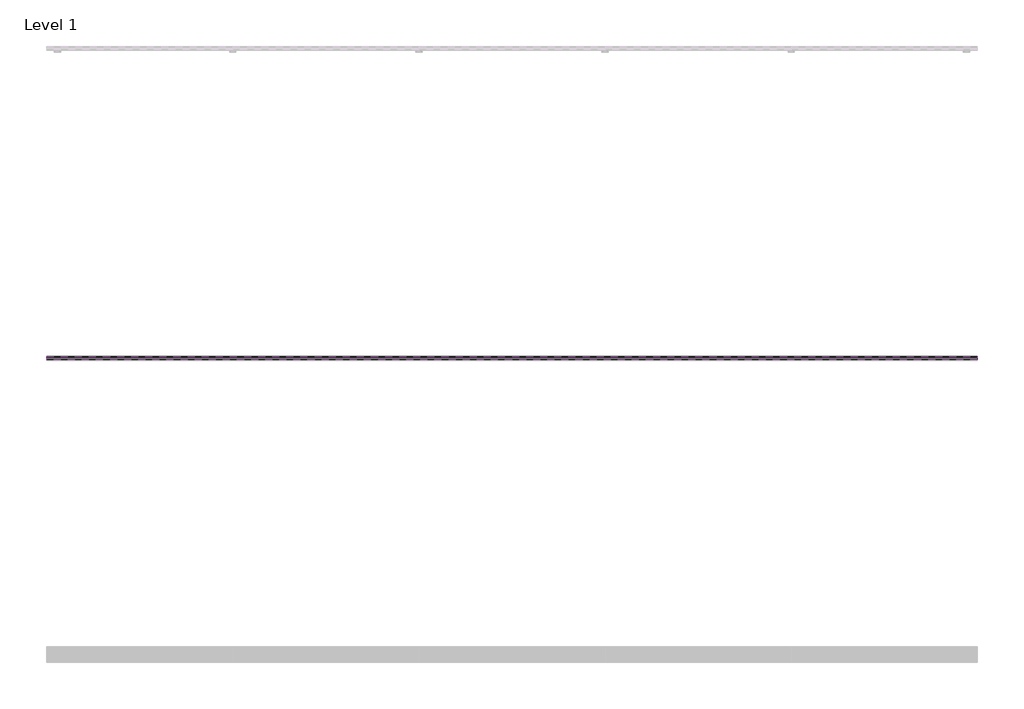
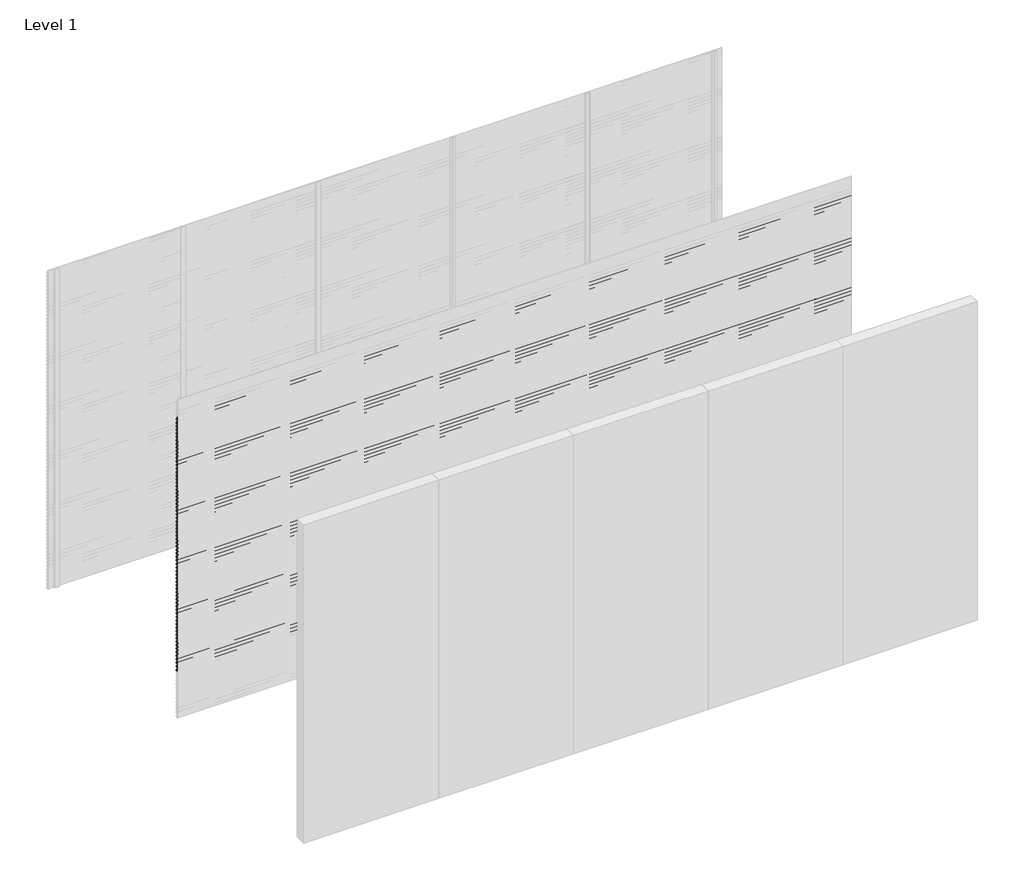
# One storey, part 41 of 77: 72 proxies.
"""IFC4 building model written with IfcOpenShell, lengths in millimetres."""

from ifc_helpers import new_model, si_unit, frame, origin, place, context, project, spatial, polyline, outline, extrude, element, save

model = new_model("IFC4")

# Units and contexts
model_context = context("Model", 3, world=origin())
ifc_project = project(units=[si_unit("LENGTHUNIT", "METRE", prefix="MILLI")], contexts=[model_context])

# Site, building, storey
site = spatial("IfcSite", under=ifc_project)
building = spatial("IfcBuilding", under=site)
storey = spatial("IfcBuildingStorey", under=building, Name="Level 1", Elevation=0.0)

# Proxies
placement = place(None, origin())
element("IfcBuildingElementProxy", 1, Name="Wall Sweeps", at=placement, inside=storey, context=model_context, shape_type="SweptSolid", body=[
    extrude(outline(polyline([(-25978.6, 2806.0359887), (-25998.0, 2817.2366691), (-25998.0, 2830.5), (-25997.0, 2830.5), (-25997.0, 2817.8191057), (-25977.6, 2806.6185105), (-25977.6, 2793.0185105), (-25978.6, 2794.5953129), (-25978.6, 2800.4032062), (-25995.9773817, 2792.3), (-25996.4, 2793.2063078), (-25978.6, 2801.5065841), (-25978.6, 2806.0359887)])), frame((0.0, 0.0, 0.0), z_axis=(1.0, 0.0, 0.0), x_axis=(0.0, 1.0, 0.0)), (0.0, 0.0, 1.0), 6000.0),
])
element("IfcBuildingElementProxy", 2, Name="Wall Sweeps", at=placement, inside=storey, context=model_context, shape_type="SweptSolid", body=[
    extrude(outline(polyline([(-25978.6, 2772.7359887), (-25998.0, 2783.9366691), (-25998.0, 2797.2), (-25997.0, 2797.2), (-25997.0, 2784.5191057), (-25977.6, 2773.3185105), (-25977.6, 2759.7185105), (-25978.6, 2761.2953129), (-25978.6, 2767.1032062), (-25995.9773817, 2759.0), (-25996.4, 2759.9063078), (-25978.6, 2768.2065841), (-25978.6, 2772.7359887)])), frame((0.0, 0.0, 0.0), z_axis=(1.0, 0.0, 0.0), x_axis=(0.0, 1.0, 0.0)), (0.0, 0.0, 1.0), 6000.0),
])
element("IfcBuildingElementProxy", 3, Name="Wall Sweeps", at=placement, inside=storey, context=model_context, shape_type="SweptSolid", body=[
    extrude(outline(polyline([(-25978.6, 2739.4359887), (-25998.0, 2750.6366691), (-25998.0, 2763.9), (-25997.0, 2763.9), (-25997.0, 2751.2191057), (-25977.6, 2740.0185105), (-25977.6, 2726.4185105), (-25978.6, 2727.9953129), (-25978.6, 2733.8032062), (-25995.9773817, 2725.7), (-25996.4, 2726.6063078), (-25978.6, 2734.9065841), (-25978.6, 2739.4359887)])), frame((0.0, 0.0, 0.0), z_axis=(1.0, 0.0, 0.0), x_axis=(0.0, 1.0, 0.0)), (0.0, 0.0, 1.0), 6000.0),
])
element("IfcBuildingElementProxy", 4, Name="Wall Sweeps", at=placement, inside=storey, context=model_context, shape_type="SweptSolid", body=[
    extrude(outline(polyline([(-25978.6, 2706.1359887), (-25998.0, 2717.3366691), (-25998.0, 2730.6), (-25997.0, 2730.6), (-25997.0, 2717.9191057), (-25977.6, 2706.7185105), (-25977.6, 2693.1185105), (-25978.6, 2694.6953129), (-25978.6, 2700.5032062), (-25995.9773817, 2692.4), (-25996.4, 2693.3063078), (-25978.6, 2701.6065841), (-25978.6, 2706.1359887)])), frame((0.0, 0.0, 0.0), z_axis=(1.0, 0.0, 0.0), x_axis=(0.0, 1.0, 0.0)), (0.0, 0.0, 1.0), 6000.0),
])
element("IfcBuildingElementProxy", 5, Name="Wall Sweeps", at=placement, inside=storey, context=model_context, shape_type="SweptSolid", body=[
    extrude(outline(polyline([(-25978.6, 2672.8359887), (-25998.0, 2684.0366691), (-25998.0, 2697.3), (-25997.0, 2697.3), (-25997.0, 2684.6191057), (-25977.6, 2673.4185105), (-25977.6, 2659.8185105), (-25978.6, 2661.3953129), (-25978.6, 2667.2032062), (-25995.9773817, 2659.1), (-25996.4, 2660.0063078), (-25978.6, 2668.3065841), (-25978.6, 2672.8359887)])), frame((0.0, 0.0, 0.0), z_axis=(1.0, 0.0, 0.0), x_axis=(0.0, 1.0, 0.0)), (0.0, 0.0, 1.0), 6000.0),
])
element("IfcBuildingElementProxy", 6, Name="Wall Sweeps", at=placement, inside=storey, context=model_context, shape_type="SweptSolid", body=[
    extrude(outline(polyline([(-25978.6, 2639.5359887), (-25998.0, 2650.7366691), (-25998.0, 2664.0), (-25997.0, 2664.0), (-25997.0, 2651.3191057), (-25977.6, 2640.1185105), (-25977.6, 2626.5185105), (-25978.6, 2628.0953129), (-25978.6, 2633.9032062), (-25995.9773817, 2625.8), (-25996.4, 2626.7063078), (-25978.6, 2635.0065841), (-25978.6, 2639.5359887)])), frame((0.0, 0.0, 0.0), z_axis=(1.0, 0.0, 0.0), x_axis=(0.0, 1.0, 0.0)), (0.0, 0.0, 1.0), 6000.0),
])
element("IfcBuildingElementProxy", 7, Name="Wall Sweeps", at=placement, inside=storey, context=model_context, shape_type="SweptSolid", body=[
    extrude(outline(polyline([(-25978.6, 2606.2359887), (-25998.0, 2617.4366691), (-25998.0, 2630.7), (-25997.0, 2630.7), (-25997.0, 2618.0191057), (-25977.6, 2606.8185105), (-25977.6, 2593.2185105), (-25978.6, 2594.7953129), (-25978.6, 2600.6032062), (-25995.9773817, 2592.5), (-25996.4, 2593.4063078), (-25978.6, 2601.7065841), (-25978.6, 2606.2359887)])), frame((0.0, 0.0, 0.0), z_axis=(1.0, 0.0, 0.0), x_axis=(0.0, 1.0, 0.0)), (0.0, 0.0, 1.0), 6000.0),
])
element("IfcBuildingElementProxy", 8, Name="Wall Sweeps", at=placement, inside=storey, context=model_context, shape_type="SweptSolid", body=[
    extrude(outline(polyline([(-25978.6, 2572.9359887), (-25998.0, 2584.1366691), (-25998.0, 2597.4), (-25997.0, 2597.4), (-25997.0, 2584.7191057), (-25977.6, 2573.5185105), (-25977.6, 2559.9185105), (-25978.6, 2561.4953129), (-25978.6, 2567.3032062), (-25995.9773817, 2559.2), (-25996.4, 2560.1063078), (-25978.6, 2568.4065841), (-25978.6, 2572.9359887)])), frame((0.0, 0.0, 0.0), z_axis=(1.0, 0.0, 0.0), x_axis=(0.0, 1.0, 0.0)), (0.0, 0.0, 1.0), 6000.0),
])
element("IfcBuildingElementProxy", 9, Name="Wall Sweeps", at=placement, inside=storey, context=model_context, shape_type="SweptSolid", body=[
    extrude(outline(polyline([(-25978.6, 2539.6359887), (-25998.0, 2550.8366691), (-25998.0, 2564.1), (-25997.0, 2564.1), (-25997.0, 2551.4191057), (-25977.6, 2540.2185105), (-25977.6, 2526.6185105), (-25978.6, 2528.1953129), (-25978.6, 2534.0032062), (-25995.9773817, 2525.9), (-25996.4, 2526.8063078), (-25978.6, 2535.1065841), (-25978.6, 2539.6359887)])), frame((0.0, 0.0, 0.0), z_axis=(1.0, 0.0, 0.0), x_axis=(0.0, 1.0, 0.0)), (0.0, 0.0, 1.0), 6000.0),
])
element("IfcBuildingElementProxy", 10, Name="Wall Sweeps", at=placement, inside=storey, context=model_context, shape_type="SweptSolid", body=[
    extrude(outline(polyline([(-25978.6, 2506.3359887), (-25998.0, 2517.5366691), (-25998.0, 2530.8), (-25997.0, 2530.8), (-25997.0, 2518.1191057), (-25977.6, 2506.9185105), (-25977.6, 2493.3185105), (-25978.6, 2494.8953129), (-25978.6, 2500.7032062), (-25995.9773817, 2492.6), (-25996.4, 2493.5063078), (-25978.6, 2501.8065841), (-25978.6, 2506.3359887)])), frame((0.0, 0.0, 0.0), z_axis=(1.0, 0.0, 0.0), x_axis=(0.0, 1.0, 0.0)), (0.0, 0.0, 1.0), 6000.0),
])
element("IfcBuildingElementProxy", 11, Name="Wall Sweeps", at=placement, inside=storey, context=model_context, shape_type="SweptSolid", body=[
    extrude(outline(polyline([(-25978.6, 2473.0359887), (-25998.0, 2484.2366691), (-25998.0, 2497.5), (-25997.0, 2497.5), (-25997.0, 2484.8191057), (-25977.6, 2473.6185105), (-25977.6, 2460.0185105), (-25978.6, 2461.5953129), (-25978.6, 2467.4032062), (-25995.9773817, 2459.3), (-25996.4, 2460.2063078), (-25978.6, 2468.5065841), (-25978.6, 2473.0359887)])), frame((0.0, 0.0, 0.0), z_axis=(1.0, 0.0, 0.0), x_axis=(0.0, 1.0, 0.0)), (0.0, 0.0, 1.0), 6000.0),
])
element("IfcBuildingElementProxy", 12, Name="Wall Sweeps", at=placement, inside=storey, context=model_context, shape_type="SweptSolid", body=[
    extrude(outline(polyline([(-25978.6, 2439.7359887), (-25998.0, 2450.9366691), (-25998.0, 2464.2), (-25997.0, 2464.2), (-25997.0, 2451.5191057), (-25977.6, 2440.3185105), (-25977.6, 2426.7185105), (-25978.6, 2428.2953129), (-25978.6, 2434.1032062), (-25995.9773817, 2426.0), (-25996.4, 2426.9063078), (-25978.6, 2435.2065841), (-25978.6, 2439.7359887)])), frame((0.0, 0.0, 0.0), z_axis=(1.0, 0.0, 0.0), x_axis=(0.0, 1.0, 0.0)), (0.0, 0.0, 1.0), 6000.0),
])
element("IfcBuildingElementProxy", 13, Name="Wall Sweeps", at=placement, inside=storey, context=model_context, shape_type="SweptSolid", body=[
    extrude(outline(polyline([(-25978.6, 2406.4359887), (-25998.0, 2417.6366691), (-25998.0, 2430.9), (-25997.0, 2430.9), (-25997.0, 2418.2191057), (-25977.6, 2407.0185105), (-25977.6, 2393.4185105), (-25978.6, 2394.9953129), (-25978.6, 2400.8032062), (-25995.9773817, 2392.7), (-25996.4, 2393.6063078), (-25978.6, 2401.9065841), (-25978.6, 2406.4359887)])), frame((0.0, 0.0, 0.0), z_axis=(1.0, 0.0, 0.0), x_axis=(0.0, 1.0, 0.0)), (0.0, 0.0, 1.0), 6000.0),
])
element("IfcBuildingElementProxy", 14, Name="Wall Sweeps", at=placement, inside=storey, context=model_context, shape_type="SweptSolid", body=[
    extrude(outline(polyline([(-25978.6, 2373.1359887), (-25998.0, 2384.3366691), (-25998.0, 2397.6), (-25997.0, 2397.6), (-25997.0, 2384.9191057), (-25977.6, 2373.7185105), (-25977.6, 2360.1185105), (-25978.6, 2361.6953129), (-25978.6, 2367.5032062), (-25995.9773817, 2359.4), (-25996.4, 2360.3063078), (-25978.6, 2368.6065841), (-25978.6, 2373.1359887)])), frame((0.0, 0.0, 0.0), z_axis=(1.0, 0.0, 0.0), x_axis=(0.0, 1.0, 0.0)), (0.0, 0.0, 1.0), 6000.0),
])
element("IfcBuildingElementProxy", 15, Name="Wall Sweeps", at=placement, inside=storey, context=model_context, shape_type="SweptSolid", body=[
    extrude(outline(polyline([(-25978.6, 2339.8359887), (-25998.0, 2351.0366691), (-25998.0, 2364.3), (-25997.0, 2364.3), (-25997.0, 2351.6191057), (-25977.6, 2340.4185105), (-25977.6, 2326.8185105), (-25978.6, 2328.3953129), (-25978.6, 2334.2032062), (-25995.9773817, 2326.1), (-25996.4, 2327.0063078), (-25978.6, 2335.3065841), (-25978.6, 2339.8359887)])), frame((0.0, 0.0, 0.0), z_axis=(1.0, 0.0, 0.0), x_axis=(0.0, 1.0, 0.0)), (0.0, 0.0, 1.0), 6000.0),
])
element("IfcBuildingElementProxy", 16, Name="Wall Sweeps", at=placement, inside=storey, context=model_context, shape_type="SweptSolid", body=[
    extrude(outline(polyline([(-25978.6, 2306.5359887), (-25998.0, 2317.7366691), (-25998.0, 2331.0), (-25997.0, 2331.0), (-25997.0, 2318.3191057), (-25977.6, 2307.1185105), (-25977.6, 2293.5185105), (-25978.6, 2295.0953129), (-25978.6, 2300.9032062), (-25995.9773817, 2292.8), (-25996.4, 2293.7063078), (-25978.6, 2302.0065841), (-25978.6, 2306.5359887)])), frame((0.0, 0.0, 0.0), z_axis=(1.0, 0.0, 0.0), x_axis=(0.0, 1.0, 0.0)), (0.0, 0.0, 1.0), 6000.0),
])
element("IfcBuildingElementProxy", 17, Name="Wall Sweeps", at=placement, inside=storey, context=model_context, shape_type="SweptSolid", body=[
    extrude(outline(polyline([(-25978.6, 2273.2359887), (-25998.0, 2284.4366691), (-25998.0, 2297.7), (-25997.0, 2297.7), (-25997.0, 2285.0191057), (-25977.6, 2273.8185105), (-25977.6, 2260.2185105), (-25978.6, 2261.7953129), (-25978.6, 2267.6032062), (-25995.9773817, 2259.5), (-25996.4, 2260.4063078), (-25978.6, 2268.7065841), (-25978.6, 2273.2359887)])), frame((0.0, 0.0, 0.0), z_axis=(1.0, 0.0, 0.0), x_axis=(0.0, 1.0, 0.0)), (0.0, 0.0, 1.0), 6000.0),
])
element("IfcBuildingElementProxy", 18, Name="Wall Sweeps", at=placement, inside=storey, context=model_context, shape_type="SweptSolid", body=[
    extrude(outline(polyline([(-25978.6, 2239.9359887), (-25998.0, 2251.1366691), (-25998.0, 2264.4), (-25997.0, 2264.4), (-25997.0, 2251.7191057), (-25977.6, 2240.5185105), (-25977.6, 2226.9185105), (-25978.6, 2228.4953129), (-25978.6, 2234.3032062), (-25995.9773817, 2226.2), (-25996.4, 2227.1063078), (-25978.6, 2235.4065841), (-25978.6, 2239.9359887)])), frame((0.0, 0.0, 0.0), z_axis=(1.0, 0.0, 0.0), x_axis=(0.0, 1.0, 0.0)), (0.0, 0.0, 1.0), 6000.0),
])
element("IfcBuildingElementProxy", 19, Name="Wall Sweeps", at=placement, inside=storey, context=model_context, shape_type="SweptSolid", body=[
    extrude(outline(polyline([(-25978.6, 2206.6359887), (-25998.0, 2217.8366691), (-25998.0, 2231.1), (-25997.0, 2231.1), (-25997.0, 2218.4191057), (-25977.6, 2207.2185105), (-25977.6, 2193.6185105), (-25978.6, 2195.1953129), (-25978.6, 2201.0032062), (-25995.9773817, 2192.9), (-25996.4, 2193.8063078), (-25978.6, 2202.1065841), (-25978.6, 2206.6359887)])), frame((0.0, 0.0, 0.0), z_axis=(1.0, 0.0, 0.0), x_axis=(0.0, 1.0, 0.0)), (0.0, 0.0, 1.0), 6000.0),
])
element("IfcBuildingElementProxy", 20, Name="Wall Sweeps", at=placement, inside=storey, context=model_context, shape_type="SweptSolid", body=[
    extrude(outline(polyline([(-25978.6, 2173.3359887), (-25998.0, 2184.5366691), (-25998.0, 2197.8), (-25997.0, 2197.8), (-25997.0, 2185.1191057), (-25977.6, 2173.9185105), (-25977.6, 2160.3185105), (-25978.6, 2161.8953129), (-25978.6, 2167.7032062), (-25995.9773817, 2159.6), (-25996.4, 2160.5063078), (-25978.6, 2168.8065841), (-25978.6, 2173.3359887)])), frame((0.0, 0.0, 0.0), z_axis=(1.0, 0.0, 0.0), x_axis=(0.0, 1.0, 0.0)), (0.0, 0.0, 1.0), 6000.0),
])
element("IfcBuildingElementProxy", 21, Name="Wall Sweeps", at=placement, inside=storey, context=model_context, shape_type="SweptSolid", body=[
    extrude(outline(polyline([(-25978.6, 2140.0359887), (-25998.0, 2151.2366691), (-25998.0, 2164.5), (-25997.0, 2164.5), (-25997.0, 2151.8191057), (-25977.6, 2140.6185105), (-25977.6, 2127.0185105), (-25978.6, 2128.5953129), (-25978.6, 2134.4032062), (-25995.9773817, 2126.3), (-25996.4, 2127.2063078), (-25978.6, 2135.5065841), (-25978.6, 2140.0359887)])), frame((0.0, 0.0, 0.0), z_axis=(1.0, 0.0, 0.0), x_axis=(0.0, 1.0, 0.0)), (0.0, 0.0, 1.0), 6000.0),
])
element("IfcBuildingElementProxy", 22, Name="Wall Sweeps", at=placement, inside=storey, context=model_context, shape_type="SweptSolid", body=[
    extrude(outline(polyline([(-25978.6, 2106.7359887), (-25998.0, 2117.9366691), (-25998.0, 2131.2), (-25997.0, 2131.2), (-25997.0, 2118.5191057), (-25977.6, 2107.3185105), (-25977.6, 2093.7185105), (-25978.6, 2095.2953129), (-25978.6, 2101.1032062), (-25995.9773817, 2093.0), (-25996.4, 2093.9063078), (-25978.6, 2102.2065841), (-25978.6, 2106.7359887)])), frame((0.0, 0.0, 0.0), z_axis=(1.0, 0.0, 0.0), x_axis=(0.0, 1.0, 0.0)), (0.0, 0.0, 1.0), 6000.0),
])
element("IfcBuildingElementProxy", 23, Name="Wall Sweeps", at=placement, inside=storey, context=model_context, shape_type="SweptSolid", body=[
    extrude(outline(polyline([(-25978.6, 2073.4359887), (-25998.0, 2084.6366691), (-25998.0, 2097.9), (-25997.0, 2097.9), (-25997.0, 2085.2191057), (-25977.6, 2074.0185105), (-25977.6, 2060.4185105), (-25978.6, 2061.9953129), (-25978.6, 2067.8032062), (-25995.9773817, 2059.7), (-25996.4, 2060.6063078), (-25978.6, 2068.9065841), (-25978.6, 2073.4359887)])), frame((0.0, 0.0, 0.0), z_axis=(1.0, 0.0, 0.0), x_axis=(0.0, 1.0, 0.0)), (0.0, 0.0, 1.0), 6000.0),
])
element("IfcBuildingElementProxy", 24, Name="Wall Sweeps", at=placement, inside=storey, context=model_context, shape_type="SweptSolid", body=[
    extrude(outline(polyline([(-25978.6, 2040.1359887), (-25998.0, 2051.3366691), (-25998.0, 2064.6), (-25997.0, 2064.6), (-25997.0, 2051.9191057), (-25977.6, 2040.7185105), (-25977.6, 2027.1185105), (-25978.6, 2028.6953129), (-25978.6, 2034.5032062), (-25995.9773817, 2026.4), (-25996.4, 2027.3063078), (-25978.6, 2035.6065841), (-25978.6, 2040.1359887)])), frame((0.0, 0.0, 0.0), z_axis=(1.0, 0.0, 0.0), x_axis=(0.0, 1.0, 0.0)), (0.0, 0.0, 1.0), 6000.0),
])
element("IfcBuildingElementProxy", 25, Name="Wall Sweeps", at=placement, inside=storey, context=model_context, shape_type="SweptSolid", body=[
    extrude(outline(polyline([(-25978.6, 2006.8359887), (-25998.0, 2018.0366691), (-25998.0, 2031.3), (-25997.0, 2031.3), (-25997.0, 2018.6191057), (-25977.6, 2007.4185105), (-25977.6, 1993.8185105), (-25978.6, 1995.3953129), (-25978.6, 2001.2032062), (-25995.9773817, 1993.1), (-25996.4, 1994.0063078), (-25978.6, 2002.3065841), (-25978.6, 2006.8359887)])), frame((0.0, 0.0, 0.0), z_axis=(1.0, 0.0, 0.0), x_axis=(0.0, 1.0, 0.0)), (0.0, 0.0, 1.0), 6000.0),
])
element("IfcBuildingElementProxy", 26, Name="Wall Sweeps", at=placement, inside=storey, context=model_context, shape_type="SweptSolid", body=[
    extrude(outline(polyline([(-25978.6, 1973.5359887), (-25998.0, 1984.7366691), (-25998.0, 1998.0), (-25997.0, 1998.0), (-25997.0, 1985.3191057), (-25977.6, 1974.1185105), (-25977.6, 1960.5185105), (-25978.6, 1962.0953129), (-25978.6, 1967.9032062), (-25995.9773817, 1959.8), (-25996.4, 1960.7063078), (-25978.6, 1969.0065841), (-25978.6, 1973.5359887)])), frame((0.0, 0.0, 0.0), z_axis=(1.0, 0.0, 0.0), x_axis=(0.0, 1.0, 0.0)), (0.0, 0.0, 1.0), 6000.0),
])
element("IfcBuildingElementProxy", 27, Name="Wall Sweeps", at=placement, inside=storey, context=model_context, shape_type="SweptSolid", body=[
    extrude(outline(polyline([(-25978.6, 1940.2359887), (-25998.0, 1951.4366691), (-25998.0, 1964.7), (-25997.0, 1964.7), (-25997.0, 1952.0191057), (-25977.6, 1940.8185105), (-25977.6, 1927.2185105), (-25978.6, 1928.7953129), (-25978.6, 1934.6032062), (-25995.9773817, 1926.5), (-25996.4, 1927.4063078), (-25978.6, 1935.7065841), (-25978.6, 1940.2359887)])), frame((0.0, 0.0, 0.0), z_axis=(1.0, 0.0, 0.0), x_axis=(0.0, 1.0, 0.0)), (0.0, 0.0, 1.0), 6000.0),
])
element("IfcBuildingElementProxy", 28, Name="Wall Sweeps", at=placement, inside=storey, context=model_context, shape_type="SweptSolid", body=[
    extrude(outline(polyline([(-25978.6, 1906.9359887), (-25998.0, 1918.1366691), (-25998.0, 1931.4), (-25997.0, 1931.4), (-25997.0, 1918.7191057), (-25977.6, 1907.5185105), (-25977.6, 1893.9185105), (-25978.6, 1895.4953129), (-25978.6, 1901.3032062), (-25995.9773817, 1893.2), (-25996.4, 1894.1063078), (-25978.6, 1902.4065841), (-25978.6, 1906.9359887)])), frame((0.0, 0.0, 0.0), z_axis=(1.0, 0.0, 0.0), x_axis=(0.0, 1.0, 0.0)), (0.0, 0.0, 1.0), 6000.0),
])
element("IfcBuildingElementProxy", 29, Name="Wall Sweeps", at=placement, inside=storey, context=model_context, shape_type="SweptSolid", body=[
    extrude(outline(polyline([(-25978.6, 1873.6359887), (-25998.0, 1884.8366691), (-25998.0, 1898.1), (-25997.0, 1898.1), (-25997.0, 1885.4191057), (-25977.6, 1874.2185105), (-25977.6, 1860.6185105), (-25978.6, 1862.1953129), (-25978.6, 1868.0032062), (-25995.9773817, 1859.9), (-25996.4, 1860.8063078), (-25978.6, 1869.1065841), (-25978.6, 1873.6359887)])), frame((0.0, 0.0, 0.0), z_axis=(1.0, 0.0, 0.0), x_axis=(0.0, 1.0, 0.0)), (0.0, 0.0, 1.0), 6000.0),
])
element("IfcBuildingElementProxy", 30, Name="Wall Sweeps", at=placement, inside=storey, context=model_context, shape_type="SweptSolid", body=[
    extrude(outline(polyline([(-25978.6, 1840.3359887), (-25998.0, 1851.5366691), (-25998.0, 1864.8), (-25997.0, 1864.8), (-25997.0, 1852.1191057), (-25977.6, 1840.9185105), (-25977.6, 1827.3185105), (-25978.6, 1828.8953129), (-25978.6, 1834.7032062), (-25995.9773817, 1826.6), (-25996.4, 1827.5063078), (-25978.6, 1835.8065841), (-25978.6, 1840.3359887)])), frame((0.0, 0.0, 0.0), z_axis=(1.0, 0.0, 0.0), x_axis=(0.0, 1.0, 0.0)), (0.0, 0.0, 1.0), 6000.0),
])
element("IfcBuildingElementProxy", 31, Name="Wall Sweeps", at=placement, inside=storey, context=model_context, shape_type="SweptSolid", body=[
    extrude(outline(polyline([(-25978.6, 1807.0359887), (-25998.0, 1818.2366691), (-25998.0, 1831.5), (-25997.0, 1831.5), (-25997.0, 1818.8191057), (-25977.6, 1807.6185105), (-25977.6, 1794.0185105), (-25978.6, 1795.5953129), (-25978.6, 1801.4032062), (-25995.9773817, 1793.3), (-25996.4, 1794.2063078), (-25978.6, 1802.5065841), (-25978.6, 1807.0359887)])), frame((0.0, 0.0, 0.0), z_axis=(1.0, 0.0, 0.0), x_axis=(0.0, 1.0, 0.0)), (0.0, 0.0, 1.0), 6000.0),
])
element("IfcBuildingElementProxy", 32, Name="Wall Sweeps", at=placement, inside=storey, context=model_context, shape_type="SweptSolid", body=[
    extrude(outline(polyline([(-25978.6, 1773.7359887), (-25998.0, 1784.9366691), (-25998.0, 1798.2), (-25997.0, 1798.2), (-25997.0, 1785.5191057), (-25977.6, 1774.3185105), (-25977.6, 1760.7185105), (-25978.6, 1762.2953129), (-25978.6, 1768.1032062), (-25995.9773817, 1760.0), (-25996.4, 1760.9063078), (-25978.6, 1769.2065841), (-25978.6, 1773.7359887)])), frame((0.0, 0.0, 0.0), z_axis=(1.0, 0.0, 0.0), x_axis=(0.0, 1.0, 0.0)), (0.0, 0.0, 1.0), 6000.0),
])
element("IfcBuildingElementProxy", 33, Name="Wall Sweeps", at=placement, inside=storey, context=model_context, shape_type="SweptSolid", body=[
    extrude(outline(polyline([(-25978.6, 1740.4359887), (-25998.0, 1751.6366691), (-25998.0, 1764.9), (-25997.0, 1764.9), (-25997.0, 1752.2191057), (-25977.6, 1741.0185105), (-25977.6, 1727.4185105), (-25978.6, 1728.9953129), (-25978.6, 1734.8032062), (-25995.9773817, 1726.7), (-25996.4, 1727.6063078), (-25978.6, 1735.9065841), (-25978.6, 1740.4359887)])), frame((0.0, 0.0, 0.0), z_axis=(1.0, 0.0, 0.0), x_axis=(0.0, 1.0, 0.0)), (0.0, 0.0, 1.0), 6000.0),
])
element("IfcBuildingElementProxy", 34, Name="Wall Sweeps", at=placement, inside=storey, context=model_context, shape_type="SweptSolid", body=[
    extrude(outline(polyline([(-25978.6, 1707.1359887), (-25998.0, 1718.3366691), (-25998.0, 1731.6), (-25997.0, 1731.6), (-25997.0, 1718.9191057), (-25977.6, 1707.7185105), (-25977.6, 1694.1185105), (-25978.6, 1695.6953129), (-25978.6, 1701.5032062), (-25995.9773817, 1693.4), (-25996.4, 1694.3063078), (-25978.6, 1702.6065841), (-25978.6, 1707.1359887)])), frame((0.0, 0.0, 0.0), z_axis=(1.0, 0.0, 0.0), x_axis=(0.0, 1.0, 0.0)), (0.0, 0.0, 1.0), 6000.0),
])
element("IfcBuildingElementProxy", 35, Name="Wall Sweeps", at=placement, inside=storey, context=model_context, shape_type="SweptSolid", body=[
    extrude(outline(polyline([(-25978.6, 1673.8359887), (-25998.0, 1685.0366691), (-25998.0, 1698.3), (-25997.0, 1698.3), (-25997.0, 1685.6191057), (-25977.6, 1674.4185105), (-25977.6, 1660.8185105), (-25978.6, 1662.3953129), (-25978.6, 1668.2032062), (-25995.9773817, 1660.1), (-25996.4, 1661.0063078), (-25978.6, 1669.3065841), (-25978.6, 1673.8359887)])), frame((0.0, 0.0, 0.0), z_axis=(1.0, 0.0, 0.0), x_axis=(0.0, 1.0, 0.0)), (0.0, 0.0, 1.0), 6000.0),
])
element("IfcBuildingElementProxy", 36, Name="Wall Sweeps", at=placement, inside=storey, context=model_context, shape_type="SweptSolid", body=[
    extrude(outline(polyline([(-25978.6, 1640.5359887), (-25998.0, 1651.7366691), (-25998.0, 1665.0), (-25997.0, 1665.0), (-25997.0, 1652.3191057), (-25977.6, 1641.1185105), (-25977.6, 1627.5185105), (-25978.6, 1629.0953129), (-25978.6, 1634.9032062), (-25995.9773817, 1626.8), (-25996.4, 1627.7063078), (-25978.6, 1636.0065841), (-25978.6, 1640.5359887)])), frame((0.0, 0.0, 0.0), z_axis=(1.0, 0.0, 0.0), x_axis=(0.0, 1.0, 0.0)), (0.0, 0.0, 1.0), 6000.0),
])
element("IfcBuildingElementProxy", 37, Name="Wall Sweeps", at=placement, inside=storey, context=model_context, shape_type="SweptSolid", body=[
    extrude(outline(polyline([(-25978.6, 1607.2359887), (-25998.0, 1618.4366691), (-25998.0, 1631.7), (-25997.0, 1631.7), (-25997.0, 1619.0191057), (-25977.6, 1607.8185105), (-25977.6, 1594.2185105), (-25978.6, 1595.7953129), (-25978.6, 1601.6032062), (-25995.9773817, 1593.5), (-25996.4, 1594.4063078), (-25978.6, 1602.7065841), (-25978.6, 1607.2359887)])), frame((0.0, 0.0, 0.0), z_axis=(1.0, 0.0, 0.0), x_axis=(0.0, 1.0, 0.0)), (0.0, 0.0, 1.0), 6000.0),
])
element("IfcBuildingElementProxy", 38, Name="Wall Sweeps", at=placement, inside=storey, context=model_context, shape_type="SweptSolid", body=[
    extrude(outline(polyline([(-25978.6, 1573.9359887), (-25998.0, 1585.1366691), (-25998.0, 1598.4), (-25997.0, 1598.4), (-25997.0, 1585.7191057), (-25977.6, 1574.5185105), (-25977.6, 1560.9185105), (-25978.6, 1562.4953129), (-25978.6, 1568.3032062), (-25995.9773817, 1560.2), (-25996.4, 1561.1063078), (-25978.6, 1569.4065841), (-25978.6, 1573.9359887)])), frame((0.0, 0.0, 0.0), z_axis=(1.0, 0.0, 0.0), x_axis=(0.0, 1.0, 0.0)), (0.0, 0.0, 1.0), 6000.0),
])
element("IfcBuildingElementProxy", 39, Name="Wall Sweeps", at=placement, inside=storey, context=model_context, shape_type="SweptSolid", body=[
    extrude(outline(polyline([(-25978.6, 1540.6359887), (-25998.0, 1551.8366691), (-25998.0, 1565.1), (-25997.0, 1565.1), (-25997.0, 1552.4191057), (-25977.6, 1541.2185105), (-25977.6, 1527.6185105), (-25978.6, 1529.1953129), (-25978.6, 1535.0032062), (-25995.9773817, 1526.9), (-25996.4, 1527.8063078), (-25978.6, 1536.1065841), (-25978.6, 1540.6359887)])), frame((0.0, 0.0, 0.0), z_axis=(1.0, 0.0, 0.0), x_axis=(0.0, 1.0, 0.0)), (0.0, 0.0, 1.0), 6000.0),
])
element("IfcBuildingElementProxy", 40, Name="Wall Sweeps", at=placement, inside=storey, context=model_context, shape_type="SweptSolid", body=[
    extrude(outline(polyline([(-25978.6, 1507.3359887), (-25998.0, 1518.5366691), (-25998.0, 1531.8), (-25997.0, 1531.8), (-25997.0, 1519.1191057), (-25977.6, 1507.9185105), (-25977.6, 1494.3185105), (-25978.6, 1495.8953129), (-25978.6, 1501.7032062), (-25995.9773817, 1493.6), (-25996.4, 1494.5063078), (-25978.6, 1502.8065841), (-25978.6, 1507.3359887)])), frame((0.0, 0.0, 0.0), z_axis=(1.0, 0.0, 0.0), x_axis=(0.0, 1.0, 0.0)), (0.0, 0.0, 1.0), 6000.0),
])
element("IfcBuildingElementProxy", 41, Name="Wall Sweeps", at=placement, inside=storey, context=model_context, shape_type="SweptSolid", body=[
    extrude(outline(polyline([(-25978.6, 1474.0359887), (-25998.0, 1485.2366691), (-25998.0, 1498.5), (-25997.0, 1498.5), (-25997.0, 1485.8191057), (-25977.6, 1474.6185105), (-25977.6, 1461.0185105), (-25978.6, 1462.5953129), (-25978.6, 1468.4032062), (-25995.9773817, 1460.3), (-25996.4, 1461.2063078), (-25978.6, 1469.5065841), (-25978.6, 1474.0359887)])), frame((0.0, 0.0, 0.0), z_axis=(1.0, 0.0, 0.0), x_axis=(0.0, 1.0, 0.0)), (0.0, 0.0, 1.0), 6000.0),
])
element("IfcBuildingElementProxy", 42, Name="Wall Sweeps", at=placement, inside=storey, context=model_context, shape_type="SweptSolid", body=[
    extrude(outline(polyline([(-25978.6, 1440.7359887), (-25998.0, 1451.9366691), (-25998.0, 1465.2), (-25997.0, 1465.2), (-25997.0, 1452.5191057), (-25977.6, 1441.3185105), (-25977.6, 1427.7185105), (-25978.6, 1429.2953129), (-25978.6, 1435.1032062), (-25995.9773817, 1427.0), (-25996.4, 1427.9063078), (-25978.6, 1436.2065841), (-25978.6, 1440.7359887)])), frame((0.0, 0.0, 0.0), z_axis=(1.0, 0.0, 0.0), x_axis=(0.0, 1.0, 0.0)), (0.0, 0.0, 1.0), 6000.0),
])
element("IfcBuildingElementProxy", 43, Name="Wall Sweeps", at=placement, inside=storey, context=model_context, shape_type="SweptSolid", body=[
    extrude(outline(polyline([(-25978.6, 1407.4359887), (-25998.0, 1418.6366691), (-25998.0, 1431.9), (-25997.0, 1431.9), (-25997.0, 1419.2191057), (-25977.6, 1408.0185105), (-25977.6, 1394.4185105), (-25978.6, 1395.9953129), (-25978.6, 1401.8032062), (-25995.9773817, 1393.7), (-25996.4, 1394.6063078), (-25978.6, 1402.9065841), (-25978.6, 1407.4359887)])), frame((0.0, 0.0, 0.0), z_axis=(1.0, 0.0, 0.0), x_axis=(0.0, 1.0, 0.0)), (0.0, 0.0, 1.0), 6000.0),
])
element("IfcBuildingElementProxy", 44, Name="Wall Sweeps", at=placement, inside=storey, context=model_context, shape_type="SweptSolid", body=[
    extrude(outline(polyline([(-25978.6, 1374.1359887), (-25998.0, 1385.3366691), (-25998.0, 1398.6), (-25997.0, 1398.6), (-25997.0, 1385.9191057), (-25977.6, 1374.7185105), (-25977.6, 1361.1185105), (-25978.6, 1362.6953129), (-25978.6, 1368.5032062), (-25995.9773817, 1360.4), (-25996.4, 1361.3063078), (-25978.6, 1369.6065841), (-25978.6, 1374.1359887)])), frame((0.0, 0.0, 0.0), z_axis=(1.0, 0.0, 0.0), x_axis=(0.0, 1.0, 0.0)), (0.0, 0.0, 1.0), 6000.0),
])
element("IfcBuildingElementProxy", 45, Name="Wall Sweeps", at=placement, inside=storey, context=model_context, shape_type="SweptSolid", body=[
    extrude(outline(polyline([(-25978.6, 1340.8359887), (-25998.0, 1352.0366691), (-25998.0, 1365.3), (-25997.0, 1365.3), (-25997.0, 1352.6191057), (-25977.6, 1341.4185105), (-25977.6, 1327.8185105), (-25978.6, 1329.3953129), (-25978.6, 1335.2032062), (-25995.9773817, 1327.1), (-25996.4, 1328.0063078), (-25978.6, 1336.3065841), (-25978.6, 1340.8359887)])), frame((0.0, 0.0, 0.0), z_axis=(1.0, 0.0, 0.0), x_axis=(0.0, 1.0, 0.0)), (0.0, 0.0, 1.0), 6000.0),
])
element("IfcBuildingElementProxy", 46, Name="Wall Sweeps", at=placement, inside=storey, context=model_context, shape_type="SweptSolid", body=[
    extrude(outline(polyline([(-25978.6, 1307.5359887), (-25998.0, 1318.7366691), (-25998.0, 1332.0), (-25997.0, 1332.0), (-25997.0, 1319.3191057), (-25977.6, 1308.1185105), (-25977.6, 1294.5185105), (-25978.6, 1296.0953129), (-25978.6, 1301.9032062), (-25995.9773817, 1293.8), (-25996.4, 1294.7063078), (-25978.6, 1303.0065841), (-25978.6, 1307.5359887)])), frame((0.0, 0.0, 0.0), z_axis=(1.0, 0.0, 0.0), x_axis=(0.0, 1.0, 0.0)), (0.0, 0.0, 1.0), 6000.0),
])
element("IfcBuildingElementProxy", 47, Name="Wall Sweeps", at=placement, inside=storey, context=model_context, shape_type="SweptSolid", body=[
    extrude(outline(polyline([(-25978.6, 1274.2359887), (-25998.0, 1285.4366691), (-25998.0, 1298.7), (-25997.0, 1298.7), (-25997.0, 1286.0191057), (-25977.6, 1274.8185105), (-25977.6, 1261.2185105), (-25978.6, 1262.7953129), (-25978.6, 1268.6032062), (-25995.9773817, 1260.5), (-25996.4, 1261.4063078), (-25978.6, 1269.7065841), (-25978.6, 1274.2359887)])), frame((0.0, 0.0, 0.0), z_axis=(1.0, 0.0, 0.0), x_axis=(0.0, 1.0, 0.0)), (0.0, 0.0, 1.0), 6000.0),
])
element("IfcBuildingElementProxy", 48, Name="Wall Sweeps", at=placement, inside=storey, context=model_context, shape_type="SweptSolid", body=[
    extrude(outline(polyline([(-25978.6, 1240.9359887), (-25998.0, 1252.1366691), (-25998.0, 1265.4), (-25997.0, 1265.4), (-25997.0, 1252.7191057), (-25977.6, 1241.5185105), (-25977.6, 1227.9185105), (-25978.6, 1229.4953129), (-25978.6, 1235.3032062), (-25995.9773817, 1227.2), (-25996.4, 1228.1063078), (-25978.6, 1236.4065841), (-25978.6, 1240.9359887)])), frame((0.0, 0.0, 0.0), z_axis=(1.0, 0.0, 0.0), x_axis=(0.0, 1.0, 0.0)), (0.0, 0.0, 1.0), 6000.0),
])
element("IfcBuildingElementProxy", 49, Name="Wall Sweeps", at=placement, inside=storey, context=model_context, shape_type="SweptSolid", body=[
    extrude(outline(polyline([(-25978.6, 1207.6359887), (-25998.0, 1218.8366691), (-25998.0, 1232.1), (-25997.0, 1232.1), (-25997.0, 1219.4191057), (-25977.6, 1208.2185105), (-25977.6, 1194.6185105), (-25978.6, 1196.1953129), (-25978.6, 1202.0032062), (-25995.9773817, 1193.9), (-25996.4, 1194.8063078), (-25978.6, 1203.1065841), (-25978.6, 1207.6359887)])), frame((0.0, 0.0, 0.0), z_axis=(1.0, 0.0, 0.0), x_axis=(0.0, 1.0, 0.0)), (0.0, 0.0, 1.0), 6000.0),
])
element("IfcBuildingElementProxy", 50, Name="Wall Sweeps", at=placement, inside=storey, context=model_context, shape_type="SweptSolid", body=[
    extrude(outline(polyline([(-25978.6, 1174.3359887), (-25998.0, 1185.5366691), (-25998.0, 1198.8), (-25997.0, 1198.8), (-25997.0, 1186.1191057), (-25977.6, 1174.9185105), (-25977.6, 1161.3185105), (-25978.6, 1162.8953129), (-25978.6, 1168.7032062), (-25995.9773817, 1160.6), (-25996.4, 1161.5063078), (-25978.6, 1169.8065841), (-25978.6, 1174.3359887)])), frame((0.0, 0.0, 0.0), z_axis=(1.0, 0.0, 0.0), x_axis=(0.0, 1.0, 0.0)), (0.0, 0.0, 1.0), 6000.0),
])
element("IfcBuildingElementProxy", 51, Name="Wall Sweeps", at=placement, inside=storey, context=model_context, shape_type="SweptSolid", body=[
    extrude(outline(polyline([(-25978.6, 1141.0359887), (-25998.0, 1152.2366691), (-25998.0, 1165.5), (-25997.0, 1165.5), (-25997.0, 1152.8191057), (-25977.6, 1141.6185105), (-25977.6, 1128.0185105), (-25978.6, 1129.5953129), (-25978.6, 1135.4032062), (-25995.9773817, 1127.3), (-25996.4, 1128.2063078), (-25978.6, 1136.5065841), (-25978.6, 1141.0359887)])), frame((0.0, 0.0, 0.0), z_axis=(1.0, 0.0, 0.0), x_axis=(0.0, 1.0, 0.0)), (0.0, 0.0, 1.0), 6000.0),
])
element("IfcBuildingElementProxy", 52, Name="Wall Sweeps", at=placement, inside=storey, context=model_context, shape_type="SweptSolid", body=[
    extrude(outline(polyline([(-25978.6, 1107.7359887), (-25998.0, 1118.9366691), (-25998.0, 1132.2), (-25997.0, 1132.2), (-25997.0, 1119.5191057), (-25977.6, 1108.3185105), (-25977.6, 1094.7185105), (-25978.6, 1096.2953129), (-25978.6, 1102.1032062), (-25995.9773817, 1094.0), (-25996.4, 1094.9063078), (-25978.6, 1103.2065841), (-25978.6, 1107.7359887)])), frame((0.0, 0.0, 0.0), z_axis=(1.0, 0.0, 0.0), x_axis=(0.0, 1.0, 0.0)), (0.0, 0.0, 1.0), 6000.0),
])
element("IfcBuildingElementProxy", 53, Name="Wall Sweeps", at=placement, inside=storey, context=model_context, shape_type="SweptSolid", body=[
    extrude(outline(polyline([(-25978.6, 1074.4359887), (-25998.0, 1085.6366691), (-25998.0, 1098.9), (-25997.0, 1098.9), (-25997.0, 1086.2191057), (-25977.6, 1075.0185105), (-25977.6, 1061.4185105), (-25978.6, 1062.9953129), (-25978.6, 1068.8032062), (-25995.9773817, 1060.7), (-25996.4, 1061.6063078), (-25978.6, 1069.9065841), (-25978.6, 1074.4359887)])), frame((0.0, 0.0, 0.0), z_axis=(1.0, 0.0, 0.0), x_axis=(0.0, 1.0, 0.0)), (0.0, 0.0, 1.0), 6000.0),
])
element("IfcBuildingElementProxy", 54, Name="Wall Sweeps", at=placement, inside=storey, context=model_context, shape_type="SweptSolid", body=[
    extrude(outline(polyline([(-25978.6, 1041.1359887), (-25998.0, 1052.3366691), (-25998.0, 1065.6), (-25997.0, 1065.6), (-25997.0, 1052.9191057), (-25977.6, 1041.7185105), (-25977.6, 1028.1185105), (-25978.6, 1029.6953129), (-25978.6, 1035.5032062), (-25995.9773817, 1027.4), (-25996.4, 1028.3063078), (-25978.6, 1036.6065841), (-25978.6, 1041.1359887)])), frame((0.0, 0.0, 0.0), z_axis=(1.0, 0.0, 0.0), x_axis=(0.0, 1.0, 0.0)), (0.0, 0.0, 1.0), 6000.0),
])
element("IfcBuildingElementProxy", 55, Name="Wall Sweeps", at=placement, inside=storey, context=model_context, shape_type="SweptSolid", body=[
    extrude(outline(polyline([(-25978.6, 1007.8359887), (-25998.0, 1019.0366691), (-25998.0, 1032.3), (-25997.0, 1032.3), (-25997.0, 1019.6191057), (-25977.6, 1008.4185105), (-25977.6, 994.8185105), (-25978.6, 996.3953129), (-25978.6, 1002.2032062), (-25995.9773817, 994.1), (-25996.4, 995.0063078), (-25978.6, 1003.3065841), (-25978.6, 1007.8359887)])), frame((0.0, 0.0, 0.0), z_axis=(1.0, 0.0, 0.0), x_axis=(0.0, 1.0, 0.0)), (0.0, 0.0, 1.0), 6000.0),
])
element("IfcBuildingElementProxy", 56, Name="Wall Sweeps", at=placement, inside=storey, context=model_context, shape_type="SweptSolid", body=[
    extrude(outline(polyline([(-25978.6, 974.5359887), (-25998.0, 985.7366691), (-25998.0, 999.0), (-25997.0, 999.0), (-25997.0, 986.3191057), (-25977.6, 975.1185105), (-25977.6, 961.5185105), (-25978.6, 963.0953129), (-25978.6, 968.9032062), (-25995.9773817, 960.8), (-25996.4, 961.7063078), (-25978.6, 970.0065841), (-25978.6, 974.5359887)])), frame((0.0, 0.0, 0.0), z_axis=(1.0, 0.0, 0.0), x_axis=(0.0, 1.0, 0.0)), (0.0, 0.0, 1.0), 6000.0),
])
element("IfcBuildingElementProxy", 57, Name="Wall Sweeps", at=placement, inside=storey, context=model_context, shape_type="SweptSolid", body=[
    extrude(outline(polyline([(-25978.6, 941.2359887), (-25998.0, 952.4366691), (-25998.0, 965.7), (-25997.0, 965.7), (-25997.0, 953.0191057), (-25977.6, 941.8185105), (-25977.6, 928.2185105), (-25978.6, 929.7953129), (-25978.6, 935.6032062), (-25995.9773817, 927.5), (-25996.4, 928.4063078), (-25978.6, 936.7065841), (-25978.6, 941.2359887)])), frame((0.0, 0.0, 0.0), z_axis=(1.0, 0.0, 0.0), x_axis=(0.0, 1.0, 0.0)), (0.0, 0.0, 1.0), 6000.0),
])
element("IfcBuildingElementProxy", 58, Name="Wall Sweeps", at=placement, inside=storey, context=model_context, shape_type="SweptSolid", body=[
    extrude(outline(polyline([(-25978.6, 907.9359887), (-25998.0, 919.1366691), (-25998.0, 932.4), (-25997.0, 932.4), (-25997.0, 919.7191057), (-25977.6, 908.5185105), (-25977.6, 894.9185105), (-25978.6, 896.4953129), (-25978.6, 902.3032062), (-25995.9773817, 894.2), (-25996.4, 895.1063078), (-25978.6, 903.4065841), (-25978.6, 907.9359887)])), frame((0.0, 0.0, 0.0), z_axis=(1.0, 0.0, 0.0), x_axis=(0.0, 1.0, 0.0)), (0.0, 0.0, 1.0), 6000.0),
])
element("IfcBuildingElementProxy", 59, Name="Wall Sweeps", at=placement, inside=storey, context=model_context, shape_type="SweptSolid", body=[
    extrude(outline(polyline([(-25978.6, 874.6359887), (-25998.0, 885.8366691), (-25998.0, 899.1), (-25997.0, 899.1), (-25997.0, 886.4191057), (-25977.6, 875.2185105), (-25977.6, 861.6185105), (-25978.6, 863.1953129), (-25978.6, 869.0032062), (-25995.9773817, 860.9), (-25996.4, 861.8063078), (-25978.6, 870.1065841), (-25978.6, 874.6359887)])), frame((0.0, 0.0, 0.0), z_axis=(1.0, 0.0, 0.0), x_axis=(0.0, 1.0, 0.0)), (0.0, 0.0, 1.0), 6000.0),
])
element("IfcBuildingElementProxy", 60, Name="Wall Sweeps", at=placement, inside=storey, context=model_context, shape_type="SweptSolid", body=[
    extrude(outline(polyline([(-25978.6, 841.3359887), (-25998.0, 852.5366691), (-25998.0, 865.8), (-25997.0, 865.8), (-25997.0, 853.1191057), (-25977.6, 841.9185105), (-25977.6, 828.3185105), (-25978.6, 829.8953129), (-25978.6, 835.7032062), (-25995.9773817, 827.6), (-25996.4, 828.5063078), (-25978.6, 836.8065841), (-25978.6, 841.3359887)])), frame((0.0, 0.0, 0.0), z_axis=(1.0, 0.0, 0.0), x_axis=(0.0, 1.0, 0.0)), (0.0, 0.0, 1.0), 6000.0),
])
element("IfcBuildingElementProxy", 61, Name="Wall Sweeps", at=placement, inside=storey, context=model_context, shape_type="SweptSolid", body=[
    extrude(outline(polyline([(-25978.6, 808.0359887), (-25998.0, 819.2366691), (-25998.0, 832.5), (-25997.0, 832.5), (-25997.0, 819.8191057), (-25977.6, 808.6185105), (-25977.6, 795.0185105), (-25978.6, 796.5953129), (-25978.6, 802.4032062), (-25995.9773817, 794.3), (-25996.4, 795.2063078), (-25978.6, 803.5065841), (-25978.6, 808.0359887)])), frame((0.0, 0.0, 0.0), z_axis=(1.0, 0.0, 0.0), x_axis=(0.0, 1.0, 0.0)), (0.0, 0.0, 1.0), 6000.0),
])
element("IfcBuildingElementProxy", 62, Name="Wall Sweeps", at=placement, inside=storey, context=model_context, shape_type="SweptSolid", body=[
    extrude(outline(polyline([(-25978.6, 774.7359887), (-25998.0, 785.9366691), (-25998.0, 799.2), (-25997.0, 799.2), (-25997.0, 786.5191057), (-25977.6, 775.3185105), (-25977.6, 761.7185105), (-25978.6, 763.2953129), (-25978.6, 769.1032062), (-25995.9773817, 761.0), (-25996.4, 761.9063078), (-25978.6, 770.2065841), (-25978.6, 774.7359887)])), frame((0.0, 0.0, 0.0), z_axis=(1.0, 0.0, 0.0), x_axis=(0.0, 1.0, 0.0)), (0.0, 0.0, 1.0), 6000.0),
])
element("IfcBuildingElementProxy", 63, Name="Wall Sweeps", at=placement, inside=storey, context=model_context, shape_type="SweptSolid", body=[
    extrude(outline(polyline([(-25978.6, 741.4359887), (-25998.0, 752.6366691), (-25998.0, 765.9), (-25997.0, 765.9), (-25997.0, 753.2191057), (-25977.6, 742.0185105), (-25977.6, 728.4185105), (-25978.6, 729.9953129), (-25978.6, 735.8032062), (-25995.9773817, 727.7), (-25996.4, 728.6063078), (-25978.6, 736.9065841), (-25978.6, 741.4359887)])), frame((0.0, 0.0, 0.0), z_axis=(1.0, 0.0, 0.0), x_axis=(0.0, 1.0, 0.0)), (0.0, 0.0, 1.0), 6000.0),
])
element("IfcBuildingElementProxy", 64, Name="Wall Sweeps", at=placement, inside=storey, context=model_context, shape_type="SweptSolid", body=[
    extrude(outline(polyline([(-25978.6, 708.1359887), (-25998.0, 719.3366691), (-25998.0, 732.6), (-25997.0, 732.6), (-25997.0, 719.9191057), (-25977.6, 708.7185105), (-25977.6, 695.1185105), (-25978.6, 696.6953129), (-25978.6, 702.5032062), (-25995.9773817, 694.4), (-25996.4, 695.3063078), (-25978.6, 703.6065841), (-25978.6, 708.1359887)])), frame((0.0, 0.0, 0.0), z_axis=(1.0, 0.0, 0.0), x_axis=(0.0, 1.0, 0.0)), (0.0, 0.0, 1.0), 6000.0),
])
element("IfcBuildingElementProxy", 65, Name="Wall Sweeps", at=placement, inside=storey, context=model_context, shape_type="SweptSolid", body=[
    extrude(outline(polyline([(-25978.6, 674.8359887), (-25998.0, 686.0366691), (-25998.0, 699.3), (-25997.0, 699.3), (-25997.0, 686.6191057), (-25977.6, 675.4185105), (-25977.6, 661.8185105), (-25978.6, 663.3953129), (-25978.6, 669.2032062), (-25995.9773817, 661.1), (-25996.4, 662.0063078), (-25978.6, 670.3065841), (-25978.6, 674.8359887)])), frame((0.0, 0.0, 0.0), z_axis=(1.0, 0.0, 0.0), x_axis=(0.0, 1.0, 0.0)), (0.0, 0.0, 1.0), 6000.0),
])
element("IfcBuildingElementProxy", 66, Name="Wall Sweeps", at=placement, inside=storey, context=model_context, shape_type="SweptSolid", body=[
    extrude(outline(polyline([(-25978.6, 641.5359887), (-25998.0, 652.7366691), (-25998.0, 666.0), (-25997.0, 666.0), (-25997.0, 653.3191057), (-25977.6, 642.1185105), (-25977.6, 628.5185105), (-25978.6, 630.0953129), (-25978.6, 635.9032062), (-25995.9773817, 627.8), (-25996.4, 628.7063078), (-25978.6, 637.0065841), (-25978.6, 641.5359887)])), frame((0.0, 0.0, 0.0), z_axis=(1.0, 0.0, 0.0), x_axis=(0.0, 1.0, 0.0)), (0.0, 0.0, 1.0), 6000.0),
])
element("IfcBuildingElementProxy", 67, Name="Wall Sweeps", at=placement, inside=storey, context=model_context, shape_type="SweptSolid", body=[
    extrude(outline(polyline([(-25978.6, 608.2359887), (-25998.0, 619.4366691), (-25998.0, 632.7), (-25997.0, 632.7), (-25997.0, 620.0191057), (-25977.6, 608.8185105), (-25977.6, 595.2185105), (-25978.6, 596.7953129), (-25978.6, 602.6032062), (-25995.9773817, 594.5), (-25996.4, 595.4063078), (-25978.6, 603.7065841), (-25978.6, 608.2359887)])), frame((0.0, 0.0, 0.0), z_axis=(1.0, 0.0, 0.0), x_axis=(0.0, 1.0, 0.0)), (0.0, 0.0, 1.0), 6000.0),
])
element("IfcBuildingElementProxy", 68, Name="Wall Sweeps", at=placement, inside=storey, context=model_context, shape_type="SweptSolid", body=[
    extrude(outline(polyline([(-25978.6, 574.9359887), (-25998.0, 586.1366691), (-25998.0, 599.4), (-25997.0, 599.4), (-25997.0, 586.7191057), (-25977.6, 575.5185105), (-25977.6, 561.9185105), (-25978.6, 563.4953129), (-25978.6, 569.3032062), (-25995.9773817, 561.2), (-25996.4, 562.1063078), (-25978.6, 570.4065841), (-25978.6, 574.9359887)])), frame((0.0, 0.0, 0.0), z_axis=(1.0, 0.0, 0.0), x_axis=(0.0, 1.0, 0.0)), (0.0, 0.0, 1.0), 6000.0),
])
element("IfcBuildingElementProxy", 69, Name="Wall Sweeps", at=placement, inside=storey, context=model_context, shape_type="SweptSolid", body=[
    extrude(outline(polyline([(-25978.6, 541.6359887), (-25998.0, 552.8366691), (-25998.0, 566.1), (-25997.0, 566.1), (-25997.0, 553.4191057), (-25977.6, 542.2185105), (-25977.6, 528.6185105), (-25978.6, 530.1953129), (-25978.6, 536.0032062), (-25995.9773817, 527.9), (-25996.4, 528.8063078), (-25978.6, 537.1065841), (-25978.6, 541.6359887)])), frame((0.0, 0.0, 0.0), z_axis=(1.0, 0.0, 0.0), x_axis=(0.0, 1.0, 0.0)), (0.0, 0.0, 1.0), 6000.0),
])
element("IfcBuildingElementProxy", 70, Name="Wall Sweeps", at=placement, inside=storey, context=model_context, shape_type="SweptSolid", body=[
    extrude(outline(polyline([(-25978.6, 508.3359887), (-25998.0, 519.5366691), (-25998.0, 532.8), (-25997.0, 532.8), (-25997.0, 520.1191057), (-25977.6, 508.9185105), (-25977.6, 495.3185105), (-25978.6, 496.8953129), (-25978.6, 502.7032062), (-25995.9773817, 494.6), (-25996.4, 495.5063078), (-25978.6, 503.8065841), (-25978.6, 508.3359887)])), frame((0.0, 0.0, 0.0), z_axis=(1.0, 0.0, 0.0), x_axis=(0.0, 1.0, 0.0)), (0.0, 0.0, 1.0), 6000.0),
])
element("IfcBuildingElementProxy", 71, Name="Wall Sweeps", at=placement, inside=storey, context=model_context, shape_type="SweptSolid", body=[
    extrude(outline(polyline([(-25978.6, 475.0359887), (-25998.0, 486.2366691), (-25998.0, 499.5), (-25997.0, 499.5), (-25997.0, 486.8191057), (-25977.6, 475.6185105), (-25977.6, 462.0185105), (-25978.6, 463.5953129), (-25978.6, 469.4032062), (-25995.9773817, 461.3), (-25996.4, 462.2063078), (-25978.6, 470.5065841), (-25978.6, 475.0359887)])), frame((0.0, 0.0, 0.0), z_axis=(1.0, 0.0, 0.0), x_axis=(0.0, 1.0, 0.0)), (0.0, 0.0, 1.0), 6000.0),
])
element("IfcBuildingElementProxy", 72, Name="Wall Sweeps", at=placement, inside=storey, context=model_context, shape_type="SweptSolid", body=[
    extrude(outline(polyline([(-25978.6, 441.7359887), (-25998.0, 452.9366691), (-25998.0, 466.2), (-25997.0, 466.2), (-25997.0, 453.5191057), (-25977.6, 442.3185105), (-25977.6, 428.7185105), (-25978.6, 430.2953129), (-25978.6, 436.1032062), (-25995.9773817, 428.0), (-25996.4, 428.9063078), (-25978.6, 437.2065841), (-25978.6, 441.7359887)])), frame((0.0, 0.0, 0.0), z_axis=(1.0, 0.0, 0.0), x_axis=(0.0, 1.0, 0.0)), (0.0, 0.0, 1.0), 6000.0),
])

save(model, "model.ifc")
